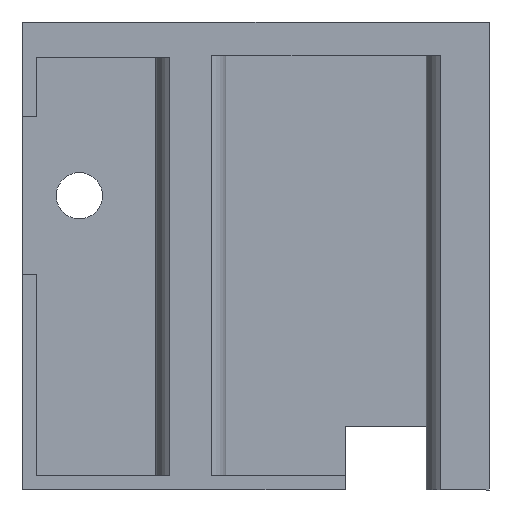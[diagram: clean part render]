
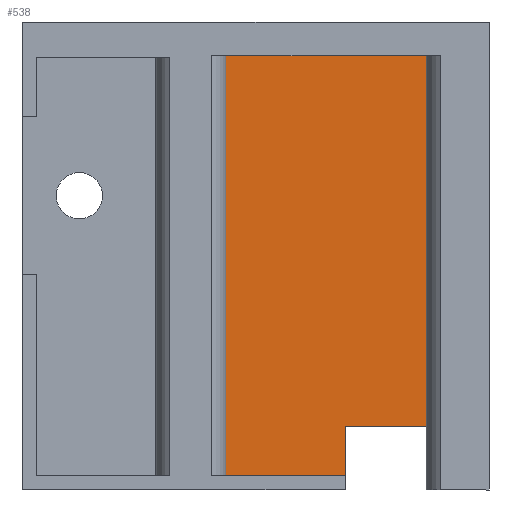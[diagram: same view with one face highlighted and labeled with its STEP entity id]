
A CAD part, front view. The second image highlights one B-rep face of the part: STEP entity #538.
In plain terms, the highlighted planar face has unit normal (0, -1, 0).
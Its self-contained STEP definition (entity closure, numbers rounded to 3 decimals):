
#43=FACE_OUTER_BOUND('',#75,.T.);
#75=EDGE_LOOP('',(#430,#431,#432,#433,#434,#435));
#127=LINE('',#838,#185);
#141=LINE('',#871,#199);
#143=LINE('',#875,#201);
#144=LINE('',#877,#202);
#145=LINE('',#879,#203);
#146=LINE('',#880,#204);
#185=VECTOR('',#665,10.);
#199=VECTOR('',#699,10.);
#201=VECTOR('',#703,10.);
#202=VECTOR('',#704,10.);
#203=VECTOR('',#705,10.);
#204=VECTOR('',#706,10.);
#259=VERTEX_POINT('',#835);
#260=VERTEX_POINT('',#837);
#269=VERTEX_POINT('',#870);
#270=VERTEX_POINT('',#874);
#271=VERTEX_POINT('',#876);
#272=VERTEX_POINT('',#878);
#314=EDGE_CURVE('',#259,#260,#127,.F.);
#331=EDGE_CURVE('',#259,#269,#141,.T.);
#333=EDGE_CURVE('',#270,#269,#143,.T.);
#334=EDGE_CURVE('',#271,#270,#144,.T.);
#335=EDGE_CURVE('',#271,#272,#145,.F.);
#336=EDGE_CURVE('',#272,#260,#146,.T.);
#430=ORIENTED_EDGE('',*,*,#331,.T.);
#431=ORIENTED_EDGE('',*,*,#333,.F.);
#432=ORIENTED_EDGE('',*,*,#334,.F.);
#433=ORIENTED_EDGE('',*,*,#335,.T.);
#434=ORIENTED_EDGE('',*,*,#336,.T.);
#435=ORIENTED_EDGE('',*,*,#314,.F.);
#516=PLANE('',#588);
#538=ADVANCED_FACE('',(#43),#516,.F.);
#588=AXIS2_PLACEMENT_3D('',#873,#701,#702);
#665=DIRECTION('',(1.,0.,0.));
#699=DIRECTION('',(0.,0.,1.));
#701=DIRECTION('center_axis',(0.,1.,0.));
#702=DIRECTION('ref_axis',(-1.,0.,0.));
#703=DIRECTION('',(-1.,0.,0.));
#704=DIRECTION('',(0.,0.,-1.));
#705=DIRECTION('',(1.,0.,0.));
#706=DIRECTION('',(0.,0.,-1.));
#835=CARTESIAN_POINT('',(12.444,-257.,-5.916));
#837=CARTESIAN_POINT('',(-4.991,-257.,-5.916));
#838=CARTESIAN_POINT('',(16.376,-257.,-5.916));
#870=CARTESIAN_POINT('',(12.444,-257.,1.084));
#871=CARTESIAN_POINT('',(12.444,-257.,19.584));
#873=CARTESIAN_POINT('Origin',(33.026,-257.,-7.916));
#874=CARTESIAN_POINT('',(24.444,-257.,1.084));
#875=CARTESIAN_POINT('',(28.735,-257.,1.084));
#876=CARTESIAN_POINT('',(24.444,-257.,54.084));
#877=CARTESIAN_POINT('',(24.444,-257.,30.584));
#878=CARTESIAN_POINT('',(-4.991,-257.,54.084));
#879=CARTESIAN_POINT('',(16.376,-257.,54.084));
#880=CARTESIAN_POINT('',(-4.991,-257.,3.084));
